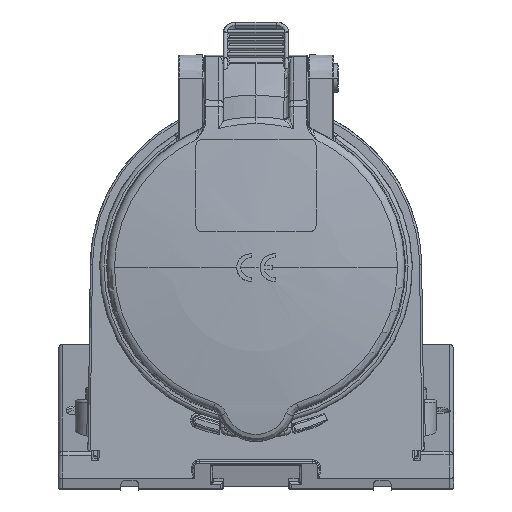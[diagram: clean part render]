
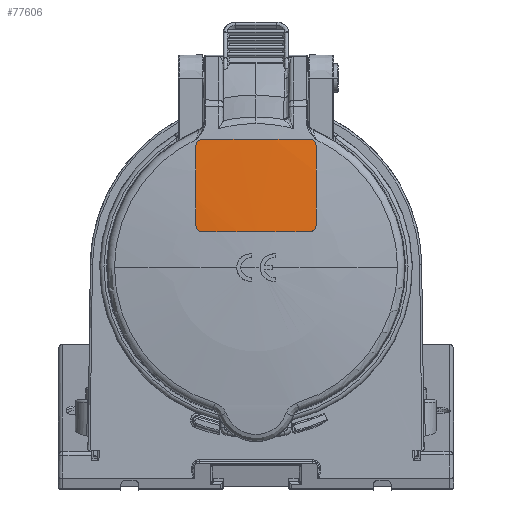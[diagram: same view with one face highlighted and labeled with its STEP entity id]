
A CAD part, top view. The second image highlights one B-rep face of the part: STEP entity #77606.
In plain terms, the highlighted spherical face has radius 249.7 mm.
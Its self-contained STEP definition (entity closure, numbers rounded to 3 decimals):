
#22293=CARTESIAN_POINT('',(14.25,10.012,63.492));
#22294=CARTESIAN_POINT('',(14.25,9.912,63.496));
#22295=CARTESIAN_POINT('',(14.23,9.712,63.506));
#22296=CARTESIAN_POINT('',(14.14,9.423,63.522));
#22297=CARTESIAN_POINT('',(13.995,9.158,63.54));
#22298=CARTESIAN_POINT('',(13.8,8.927,63.559));
#22299=CARTESIAN_POINT('',(13.562,8.74,63.579));
#22300=CARTESIAN_POINT('',(13.3,8.607,63.597));
#22301=CARTESIAN_POINT('',(13.027,8.529,63.615));
#22302=CARTESIAN_POINT('',(12.842,8.512,63.625));
#22303=CARTESIAN_POINT('',(12.75,8.512,63.629));
#22305=CARTESIAN_POINT('',(0.,8.512,-185.6));
#22306=DIRECTION('',(0.,1.,0.));
#22307=DIRECTION('',(-0.051,0.,0.999));
#22308=AXIS2_PLACEMENT_3D('',#22305,#22306,#22307);
#22310=CARTESIAN_POINT('',(-12.75,8.512,63.629));
#22311=CARTESIAN_POINT('',(-12.841,8.512,
63.625));
#22312=CARTESIAN_POINT('',(-13.026,8.529,
63.615));
#22313=CARTESIAN_POINT('',(-13.296,8.606,
63.598));
#22314=CARTESIAN_POINT('',(-13.557,8.736,
63.579));
#22315=CARTESIAN_POINT('',(-13.796,8.922,
63.559));
#22316=CARTESIAN_POINT('',(-13.993,9.154,
63.54));
#22317=CARTESIAN_POINT('',(-14.139,9.42,
63.522));
#22318=CARTESIAN_POINT('',(-14.23,9.71,
63.506));
#22319=CARTESIAN_POINT('',(-14.25,9.912,63.496));
#22320=CARTESIAN_POINT('',(-14.25,10.012,63.492));
#22322=CARTESIAN_POINT('',(-14.25,0.012,-185.6));
#22323=DIRECTION('',(1.,0.,0.));
#22324=DIRECTION('',(0.,0.116,0.993));
#22325=AXIS2_PLACEMENT_3D('',#22322,#22323,#22324);
#22327=CARTESIAN_POINT('',(-14.25,29.012,62.001));
#22328=CARTESIAN_POINT('',(-14.25,29.111,61.989));
#22329=CARTESIAN_POINT('',(-14.23,29.308,
61.967));
#22330=CARTESIAN_POINT('',(-14.144,29.592,
61.938));
#22331=CARTESIAN_POINT('',(-14.004,29.853,
61.915));
#22332=CARTESIAN_POINT('',(-13.816,30.082,
61.898));
#22333=CARTESIAN_POINT('',(-13.587,30.268,
61.888));
#22334=CARTESIAN_POINT('',(-13.327,30.407,
61.885));
#22335=CARTESIAN_POINT('',(-13.044,30.493,
61.889));
#22336=CARTESIAN_POINT('',(-12.848,30.512,
61.897));
#22337=CARTESIAN_POINT('',(-12.75,30.512,61.902));
#22339=CARTESIAN_POINT('',(0.,30.512,-185.6));
#22340=DIRECTION('',(0.,-1.,0.));
#22341=DIRECTION('',(0.051,0.,0.999));
#22342=AXIS2_PLACEMENT_3D('',#22339,#22340,#22341);
#22344=CARTESIAN_POINT('',(12.75,30.512,61.902));
#22345=CARTESIAN_POINT('',(12.848,30.512,61.897));
#22346=CARTESIAN_POINT('',(13.044,30.493,61.889));
#22347=CARTESIAN_POINT('',(13.327,30.407,61.885));
#22348=CARTESIAN_POINT('',(13.587,30.268,61.888));
#22349=CARTESIAN_POINT('',(13.816,30.082,61.898));
#22350=CARTESIAN_POINT('',(14.004,29.853,61.915));
#22351=CARTESIAN_POINT('',(14.144,29.592,61.938));
#22352=CARTESIAN_POINT('',(14.23,29.308,61.967));
#22353=CARTESIAN_POINT('',(14.25,29.111,61.989));
#22354=CARTESIAN_POINT('',(14.25,29.012,62.001));
#22356=CARTESIAN_POINT('',(14.25,0.012,-185.6));
#22357=DIRECTION('',(-1.,0.,0.));
#22358=DIRECTION('',(0.,0.04,0.999));
#22359=AXIS2_PLACEMENT_3D('',#22356,#22357,#22358);
#30480=VERTEX_POINT('',#22293);
#30481=VERTEX_POINT('',#22303);
#30484=CARTESIAN_POINT('',(14.25,29.012,62.001));
#30485=VERTEX_POINT('',#30484);
#30487=VERTEX_POINT('',#22344);
#30490=CARTESIAN_POINT('',(-12.75,30.512,61.902));
#30491=VERTEX_POINT('',#30490);
#30493=VERTEX_POINT('',#22327);
#30496=CARTESIAN_POINT('',(-14.25,10.012,63.492));
#30497=VERTEX_POINT('',#30496);
#30499=VERTEX_POINT('',#22310);
#77591=CARTESIAN_POINT('',(0.,0.012,-185.6));
#77592=DIRECTION('',(0.,0.,-1.));
#77593=DIRECTION('',(1.,0.,0.));
#77594=AXIS2_PLACEMENT_3D('',#77591,#77592,#77593);
#77595=SPHERICAL_SURFACE('1185',#77594,249.7);
#77596=ORIENTED_EDGE('4195',*,*,#77391,.T.);
#77597=ORIENTED_EDGE('4209',*,*,#77418,.F.);
#77598=ORIENTED_EDGE('4207',*,*,#77444,.T.);
#77599=ORIENTED_EDGE('4205',*,*,#77470,.F.);
#77600=ORIENTED_EDGE('4203',*,*,#77496,.T.);
#77601=ORIENTED_EDGE('4201',*,*,#77522,.F.);
#77602=ORIENTED_EDGE('4199',*,*,#77548,.T.);
#77603=ORIENTED_EDGE('4197',*,*,#77573,.F.);
#77604=EDGE_LOOP('1185',(#77596,#77597,#77598,#77599,#77600,#77601,#77602,
#77603));
#77605=FACE_OUTER_BOUND('1185',#77604,.F.);
#22304=B_SPLINE_CURVE_WITH_KNOTS('4195',3,(#22293,#22294,#22295,#22296,#22297,
#22298,#22299,#22300,#22301,#22302,#22303),.UNSPECIFIED.,.F.,.F.,(4,1,1,1,1,1,1,
1,4),(0.,0.125,0.25,0.375,0.5,0.625,0.75,0.875,1.),
.UNSPECIFIED.);
#22309=CIRCLE('4209',#22308,249.555);
#22321=B_SPLINE_CURVE_WITH_KNOTS('4207',3,(#22310,#22311,#22312,#22313,#22314,
#22315,#22316,#22317,#22318,#22319,#22320),.UNSPECIFIED.,.F.,.F.,(4,1,1,1,1,1,1,
1,4),(0.,0.125,0.25,0.375,0.5,0.625,0.75,0.875,1.),
.UNSPECIFIED.);
#22326=CIRCLE('4205',#22325,249.293);
#22338=B_SPLINE_CURVE_WITH_KNOTS('4203',3,(#22327,#22328,#22329,#22330,#22331,
#22332,#22333,#22334,#22335,#22336,#22337),.UNSPECIFIED.,.F.,.F.,(4,1,1,1,1,1,1,
1,4),(0.,0.125,0.25,0.375,0.5,0.625,0.75,0.875,1.),
.UNSPECIFIED.);
#22343=CIRCLE('4201',#22342,247.83);
#22355=B_SPLINE_CURVE_WITH_KNOTS('4199',3,(#22344,#22345,#22346,#22347,#22348,
#22349,#22350,#22351,#22352,#22353,#22354),.UNSPECIFIED.,.F.,.F.,(4,1,1,1,1,1,1,
1,4),(0.,0.125,0.25,0.375,0.5,0.625,0.75,0.875,1.),
.UNSPECIFIED.);
#22360=CIRCLE('4197',#22359,249.293);
#77391=EDGE_CURVE('4195',#30480,#30481,#22304,.T.);
#77418=EDGE_CURVE('4209',#30499,#30481,#22309,.T.);
#77444=EDGE_CURVE('4207',#30499,#30497,#22321,.T.);
#77470=EDGE_CURVE('4205',#30493,#30497,#22326,.T.);
#77496=EDGE_CURVE('4203',#30493,#30491,#22338,.T.);
#77522=EDGE_CURVE('4201',#30487,#30491,#22343,.T.);
#77548=EDGE_CURVE('4199',#30487,#30485,#22355,.T.);
#77573=EDGE_CURVE('4197',#30480,#30485,#22360,.T.);
#77606=ADVANCED_FACE('1185',(#77605),#77595,.T.);
